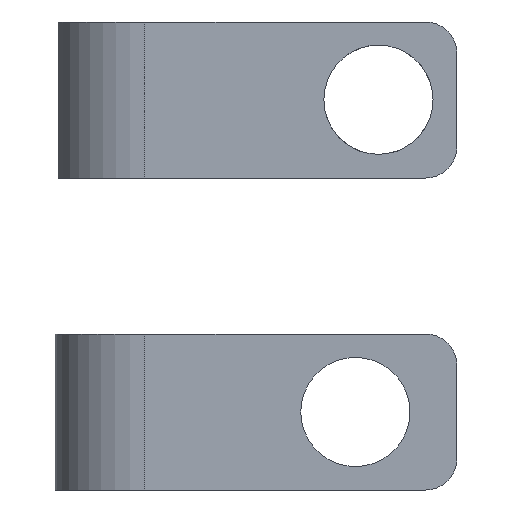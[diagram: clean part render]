
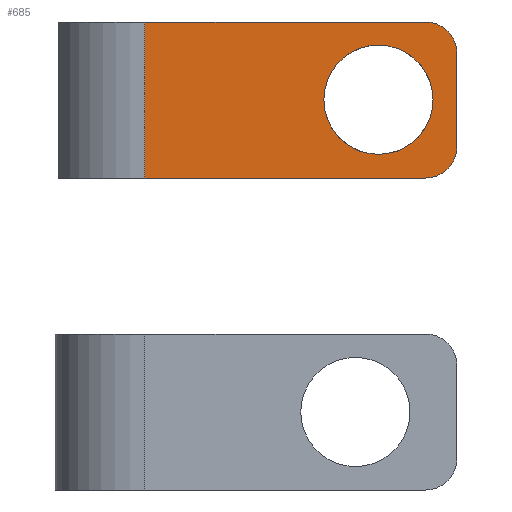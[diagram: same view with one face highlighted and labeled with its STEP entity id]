
A CAD part, front view. The second image highlights one B-rep face of the part: STEP entity #685.
In plain terms, the highlighted planar face has unit normal (0, -1, 0).
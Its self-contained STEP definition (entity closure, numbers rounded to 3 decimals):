
#26=FACE_BOUND('',#111,.T.);
#38=PLANE('',#776);
#72=FACE_OUTER_BOUND('',#110,.T.);
#110=EDGE_LOOP('',(#596,#597,#598,#599,#600,#601));
#111=EDGE_LOOP('',(#602));
#152=LINE('',#1132,#209);
#159=LINE('',#1155,#216);
#167=LINE('',#1195,#224);
#168=LINE('',#1197,#225);
#209=VECTOR('',#918,10.);
#216=VECTOR('',#943,10.);
#224=VECTOR('',#975,10.);
#225=VECTOR('',#978,10.);
#262=CIRCLE('',#761,2.);
#267=CIRCLE('',#769,2.);
#268=CIRCLE('',#771,3.5);
#317=VERTEX_POINT('',#1129);
#318=VERTEX_POINT('',#1131);
#322=VERTEX_POINT('',#1145);
#325=VERTEX_POINT('',#1153);
#331=VERTEX_POINT('',#1169);
#332=VERTEX_POINT('',#1173);
#335=VERTEX_POINT('',#1192);
#400=EDGE_CURVE('',#317,#318,#152,.T.);
#407=EDGE_CURVE('',#322,#317,#262,.T.);
#412=EDGE_CURVE('',#322,#325,#159,.T.);
#420=EDGE_CURVE('',#331,#325,#267,.T.);
#421=EDGE_CURVE('',#332,#332,#268,.T.);
#428=EDGE_CURVE('',#335,#318,#167,.T.);
#429=EDGE_CURVE('',#335,#331,#168,.T.);
#596=ORIENTED_EDGE('',*,*,#407,.F.);
#597=ORIENTED_EDGE('',*,*,#412,.T.);
#598=ORIENTED_EDGE('',*,*,#420,.F.);
#599=ORIENTED_EDGE('',*,*,#429,.F.);
#600=ORIENTED_EDGE('',*,*,#428,.T.);
#601=ORIENTED_EDGE('',*,*,#400,.F.);
#602=ORIENTED_EDGE('',*,*,#421,.T.);
#685=ADVANCED_FACE('',(#72,#26),#38,.T.);
#761=AXIS2_PLACEMENT_3D('',#1146,#934,#935);
#769=AXIS2_PLACEMENT_3D('',#1171,#958,#959);
#771=AXIS2_PLACEMENT_3D('',#1174,#962,#963);
#776=AXIS2_PLACEMENT_3D('',#1196,#976,#977);
#918=DIRECTION('',(-1.,0.,0.));
#934=DIRECTION('center_axis',(0.,1.,0.));
#935=DIRECTION('ref_axis',(0.707,0.,-0.707));
#943=DIRECTION('',(0.,0.,1.));
#958=DIRECTION('center_axis',(0.,1.,0.));
#959=DIRECTION('ref_axis',(0.707,0.,0.707));
#962=DIRECTION('center_axis',(0.,1.,0.));
#963=DIRECTION('ref_axis',(-1.,0.,0.));
#975=DIRECTION('',(0.,0.,-1.));
#976=DIRECTION('center_axis',(0.,-1.,0.));
#977=DIRECTION('ref_axis',(-1.,0.,0.));
#978=DIRECTION('',(1.,0.,0.));
#1129=CARTESIAN_POINT('',(18.,-5.75,-10.));
#1131=CARTESIAN_POINT('',(0.,-5.75,-10.));
#1132=CARTESIAN_POINT('',(0.,-5.75,-10.));
#1145=CARTESIAN_POINT('',(20.,-5.75,-8.));
#1146=CARTESIAN_POINT('Origin',(18.,-5.75,-8.));
#1153=CARTESIAN_POINT('',(20.,-5.75,-2.));
#1155=CARTESIAN_POINT('',(20.,-5.75,0.));
#1169=CARTESIAN_POINT('',(18.,-5.75,0.));
#1171=CARTESIAN_POINT('Origin',(18.,-5.75,-2.));
#1173=CARTESIAN_POINT('',(18.477,-5.75,-4.982));
#1174=CARTESIAN_POINT('Origin',(14.977,-5.75,-4.982));
#1192=CARTESIAN_POINT('',(0.,-5.75,0.));
#1195=CARTESIAN_POINT('',(0.,-5.75,0.));
#1196=CARTESIAN_POINT('Origin',(25.,-5.75,0.));
#1197=CARTESIAN_POINT('',(0.,-5.75,0.));
